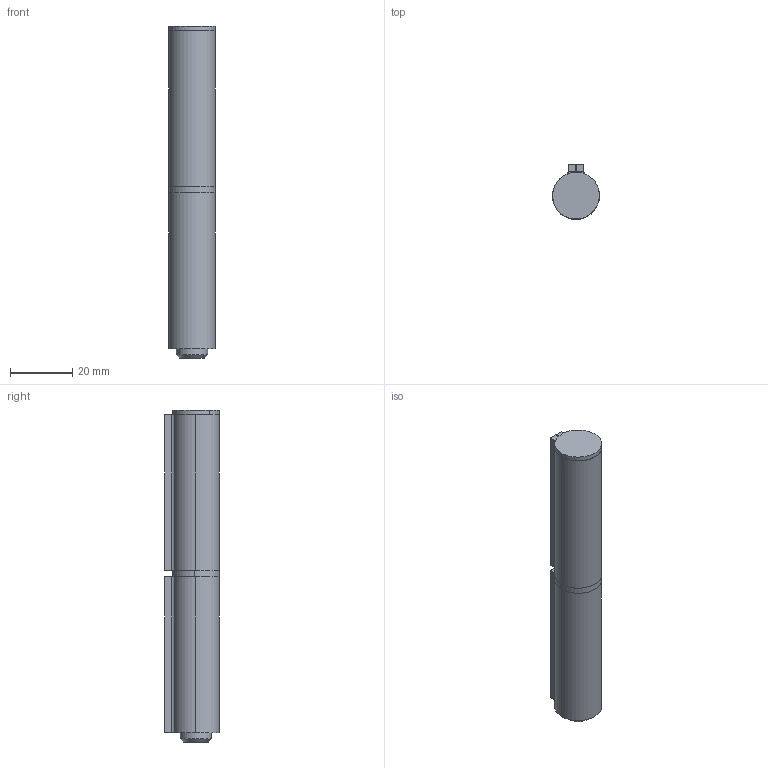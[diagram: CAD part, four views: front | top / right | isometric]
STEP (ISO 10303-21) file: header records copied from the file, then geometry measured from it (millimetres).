
FILE_DESCRIPTION (( 'STEP AP203' ), '1' );
FILE_NAME ('5.V32.124_00-00.STEP', '2025-03-25T08:29:39', ( '' ), ( '' ), 'SwSTEP 2.0', 'SolidWorks 2021', '' );
FILE_SCHEMA (( 'CONFIG_CONTROL_DESIGN' ));
Length unit declared in the file: millimetre
Products named in the file (4): P.040986_00-00; P.041287_00-01; 5.V32.124_00-00; P.041286_00-00
Assembly tree (4 placements, depth 2):
  5.V32.124_00-00
    P.040986_00-00  x2
    P.041286_00-00
    P.041287_00-01
Bounding box: 15 x 17.5 x 106.5 mm (x, y, z)
Volume: 19582.2 mm3; surface area: 13703.2 mm2
Topology: 4 solids, 4 shells, 67 faces, 140 edges, 82 vertices
Faces by surface type: plane 37, cylinder 28, cone 2
Entity records: 1522 total; most frequent: DIRECTION 218, CARTESIAN_POINT 182, ORIENTED_EDGE 168, AXIS2_PLACEMENT_3D 86, EDGE_CURVE 84, VERTEX_POINT 50, VECTOR 46, LINE 46
